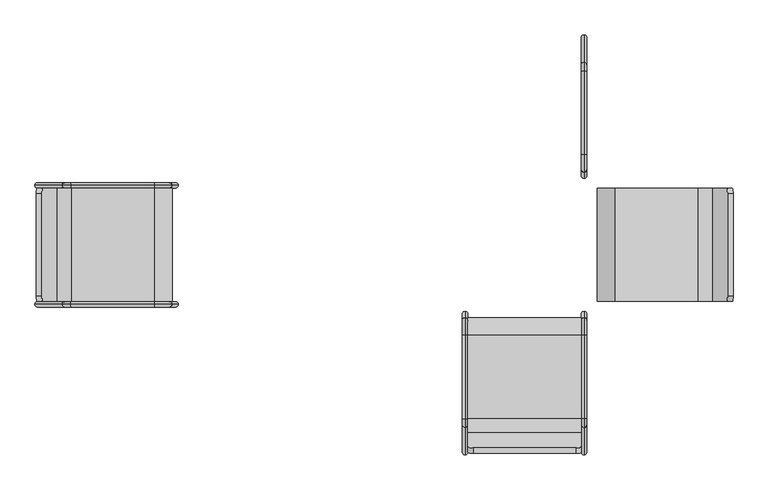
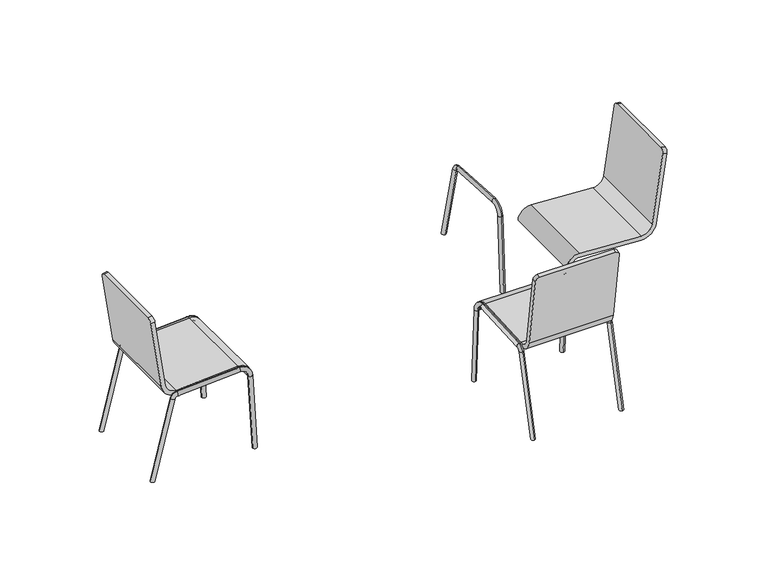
"""IFC4 building model written with IfcOpenShell, lengths in millimetres: furniture geometry, Esstisch mit Stühlen : 140 x 80 x 75 - 4 Stühle."""

from ifc_helpers import new_model, si_unit, point, frame, origin, place, context, project, spatial, polyline, circle_curve, ellipse_curve, trimmed, source, transform, mapped, element, save
from ifc_brep_helpers import plane_surface, cylinder_surface, revolved_surface, advanced_brep


def furniture_39fc5e60(model_context):
    return source(origin(), model_context, "Body", "AdvancedBrep", [
        advanced_brep(
        [(432.7255181, 202.5, 414.5657988), (485.0808804, 202.5, 457.0908917), (535.9370847, 202.5, 797.3777006), (555.717402, 202.5, 794.4215124), (504.8611977, 202.5, 454.1347035), (431.5636904, 202.5, 394.5995734), (135.5224482, 202.5, 411.8261096), (93.2663421, 202.5, 374.2173141), (73.3001167, 202.5, 375.3791418), (136.6842759, 202.5, 431.792335), (432.7255181, -202.5, 414.5657988), (136.6842759, -202.5, 431.792335), (73.3001167, -202.5, 375.3791418), (93.2663421, -202.5, 374.2173141), (135.5224482, -202.5, 411.8261096), (431.5636904, -202.5, 394.5995734), (504.8611977, -202.5, 454.1347035), (555.717402, -202.5, 794.4215124), (535.9370847, -202.5, 797.3777006), (485.0808804, -202.5, 457.0908917), (558.6735902, 182.5, 814.2018297), (558.6735902, -182.5, 814.2018297), (538.893273, 182.5, 817.1580179), (538.893273, -182.5, 817.1580179)],
        [
            (0, 1, circle_curve(frame((435.6300872, 202.5, 464.4813623), z_axis=(0.0, -1.0, 0.0), x_axis=(1.0, 0.0, 0.0)), 50.0)),
            (1, 2),
            (2, 3),
            (3, 4),
            (4, 5, circle_curve(frame((435.6300872, 202.5, 464.4813623), z_axis=(0.0, 1.0, 0.0), x_axis=(1.0, 0.0, 0.0)), 70.0)),
            (5, 6),
            (6, 7, circle_curve(frame((133.1987929, 202.5, 371.8936588), z_axis=(0.0, -1.0, 0.0), x_axis=(1.0, 0.0, 0.0)), 40.0)),
            (7, 8),
            (8, 9, circle_curve(frame((133.1987929, 202.5, 371.8936588), z_axis=(0.0, 1.0, 0.0), x_axis=(1.0, 0.0, 0.0)), 60.0)),
            (9, 0),
            (10, 11),
            (11, 12, circle_curve(frame((133.1987929, -202.5, 371.8936588), z_axis=(0.0, -1.0, 0.0), x_axis=(1.0, 0.0, 0.0)), 60.0)),
            (12, 13),
            (13, 14, circle_curve(frame((133.1987929, -202.5, 371.8936588), z_axis=(0.0, 1.0, 0.0), x_axis=(1.0, 0.0, 0.0)), 40.0)),
            (14, 15),
            (15, 16, circle_curve(frame((435.6300872, -202.5, 464.4813623), z_axis=(0.0, -1.0, 0.0), x_axis=(1.0, 0.0, 0.0)), 70.0)),
            (16, 17),
            (17, 18),
            (18, 19),
            (19, 10, circle_curve(frame((435.6300872, -202.5, 464.4813623), z_axis=(0.0, 1.0, 0.0), x_axis=(1.0, 0.0, 0.0)), 50.0)),
            (9, 11),
            (10, 0),
            (8, 12),
            (7, 13),
            (6, 14),
            (5, 15),
            (4, 16),
            (3, 20, circle_curve(frame((555.717402, 182.5, 794.4215124), z_axis=(0.9890158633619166, 0.0, -0.14780941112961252), x_axis=(0.0, -1.0, 0.0)), 20.0)),
            (20, 21),
            (21, 17, circle_curve(frame((555.717402, -182.5, 794.4215124), z_axis=(0.9890158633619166, 0.0, -0.14780941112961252), x_axis=(0.0, 1.0, 0.0)), 20.0)),
            (20, 22),
            (22, 23),
            (23, 21),
            (18, 23, circle_curve(frame((535.9370847, -182.5, 797.3777006), z_axis=(-0.9890158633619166, 0.0, 0.14780941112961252), x_axis=(0.0, 1.0, 0.0)), 20.0)),
            (22, 2, circle_curve(frame((535.9370847, 182.5, 797.3777006), z_axis=(-0.9890158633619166, 0.0, 0.14780941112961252), x_axis=(0.0, -1.0, 0.0)), 20.0)),
            (1, 19),
        ],
        [
            plane_surface(frame((138.9293412, 202.5, 431.6616954), z_axis=(0.0, 1.0000000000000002, 0.0), x_axis=(-0.9983112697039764, 0.0, 0.05809138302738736))),
            plane_surface(frame((138.9293412, -202.5, 431.6616954), z_axis=(0.0, -1.0000000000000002, 0.0), x_axis=(0.9983112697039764, 0.0, -0.05809138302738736))),
            plane_surface(frame((432.7255181, 202.5, 414.5657988), z_axis=(0.05809138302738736, 0.0, 0.9983112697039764), x_axis=(0.0, -1.0, 0.0))),
            cylinder_surface(frame((133.1987929, -202.5, 371.8936588), z_axis=(0.0, 1.0, 0.0), x_axis=(1.0, 0.0, 0.0)), 60.0),
            plane_surface(frame((73.3001167, 202.5, 375.3791418), z_axis=(-0.058091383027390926, 0.0, -0.9983112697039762), x_axis=(0.0, -1.0, 0.0))),
            revolved_surface(polyline([(173.1987929, -202.5, 371.8936588), (173.1987929, 202.5, 371.8936588)]), (133.1987929, -202.5, 371.8936588), (0.0, -1.0, 0.0)),
            plane_surface(frame((135.5224482, 202.5, 411.8261096), z_axis=(-0.05809138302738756, 0.0, -0.9983112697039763), x_axis=(0.0, -1.0, 0.0))),
            cylinder_surface(frame((435.6300872, -202.5, 464.4813623), z_axis=(0.0, 1.0, 0.0), x_axis=(1.0, 0.0, 0.0)), 70.0),
            plane_surface(frame((504.8611977, 202.5, 454.1347035), z_axis=(0.9890158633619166, 0.0, -0.1478094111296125), x_axis=(0.0, -1.0, 0.0))),
            plane_surface(frame((558.6735902, 202.5, 814.2018297), z_axis=(0.14780941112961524, 0.0, 0.9890158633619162), x_axis=(0.0, -1.0, 0.0))),
            plane_surface(frame((538.893273, 202.5, 817.1580179), z_axis=(-0.9890158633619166, 0.0, 0.14780941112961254), x_axis=(0.0, -1.0, 0.0))),
            revolved_surface(polyline([(485.6300872, -202.5, 464.4813623), (485.6300872, 202.5, 464.4813623)]), (435.6300872, -202.5, 464.4813623), (0.0, -1.0, 0.0)),
            cylinder_surface(frame((535.9370847, -182.5, 797.3777006), z_axis=(-0.9890158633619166, 0.0, 0.14780941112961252), x_axis=(0.0, 1.0, 0.0)), 20.0),
            cylinder_surface(frame((535.9370847, 182.5, 797.3777006), z_axis=(-0.9890158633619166, 0.0, 0.14780941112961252), x_axis=(0.0, -1.0, 0.0)), 20.0),
        ],
        [
            (0, [[1, 2, 3, 4, 5, 6, 7, 8, 9, 10]]),
            (1, [[11, 12, 13, 14, 15, 16, 17, 18, 19, 20]]),
            (2, [[21, -11, 22, -10]]),
            (3, [[23, -12, -21, -9]]),
            (4, [[24, -13, -23, -8]]),
            (5, [[25, -14, -24, -7]]),
            (6, [[26, -15, -25, -6]]),
            (7, [[27, -16, -26, -5]]),
            (8, [[-4, 28, 29, 30, -17, -27]]),
            (9, [[31, 32, 33, -29]]),
            (10, [[-19, 34, -32, 35, -2, 36]]),
            (11, [[-22, -20, -36, -1]]),
            (12, [[-30, -33, -34, -18]]),
            (13, [[-35, -31, -28, -3]]),
        ],
    ),
        advanced_brep(
        [(-1916.2585347, 212.5797007, 0.0), (-1936.8708073, 212.5797007, 0.0), (-1434.6031938, 222.5797007, 0.0), (-1434.6031938, 202.5797007, 0.0), (-1444.6201096, 212.5797007, 0.0), (-1820.7368981, 212.5797007, 383.1163586), (-1840.1428126, 212.5797007, 387.9547965), (-1807.053833, 212.5797007, 394.4621992), (-1808.2156606, 212.5797007, 414.4284246), (-1508.6517901, 212.5797007, 411.8261096), (-1509.8136178, 212.5797007, 431.792335), (-1466.395684, 212.5797007, 374.2173141), (-1446.4294586, 212.5797007, 375.3791418), (-1424.6200811, 212.5797007, 0.5809138)],
        [
            (0, 1, ellipse_curve(frame((-1926.564671, 212.5797007, 0.0), z_axis=(0.0, 0.0, -1.0), x_axis=(-1.0, 0.0, 0.0)), 10.3061363, 10.0)),
            (1, 0, ellipse_curve(frame((-1926.564671, 212.5797007, 0.0), z_axis=(0.0, 0.0, -1.0), x_axis=(-1.0, 0.0, 0.0)), 10.3061363, 10.0)),
            (2, 3),
            (3, 4, ellipse_curve(frame((-1434.6031938, 212.5797007, 0.0), z_axis=(0.0, 0.0, -1.0), x_axis=(-1.0, 0.0, 0.0)), 10.0169159, 10.0)),
            (4, 2, ellipse_curve(frame((-1434.6031938, 212.5797007, 0.0), z_axis=(0.0, 0.0, -1.0), x_axis=(-1.0, 0.0, 0.0)), 10.0169159, 10.0)),
            (5, 6, circle_curve(frame((-1830.4398554, 212.5797007, 385.5355776), z_axis=(-0.24192189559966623, 0.0, -0.9702957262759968), x_axis=(-0.9702957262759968, 0.0, 0.24192189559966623)), 10.0)),
            (6, 1),
            (0, 5),
            (6, 5, circle_curve(frame((-1830.4398554, 212.5797007, 385.5355776), z_axis=(-0.24192189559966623, 0.0, -0.9702957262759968), x_axis=(-0.9702957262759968, 0.0, 0.24192189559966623)), 10.0)),
            (5, 7, circle_curve(frame((-1806.1824622, 212.5797007, 379.4875302), z_axis=(0.0, 1.0, 0.0), x_axis=(-0.9702957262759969, 0.0, 0.2419218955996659)), 15.0)),
            (7, 8, circle_curve(frame((-1807.6347468, 212.5797007, 404.4453119), z_axis=(-0.998311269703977, 0.0, -0.058091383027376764), x_axis=(-0.058091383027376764, 0.0, 0.998311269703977)), 10.0)),
            (8, 6, circle_curve(frame((-1806.1824622, 212.5797007, 379.4875302), z_axis=(0.0, -1.0, 0.0), x_axis=(-0.9702957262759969, 0.0, 0.2419218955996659)), 35.0)),
            (8, 7, circle_curve(frame((-1807.6347468, 212.5797007, 404.4453119), z_axis=(-0.9983112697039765, 0.0, -0.05809138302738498), x_axis=(-0.05809138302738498, 0.0, 0.9983112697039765)), 10.0)),
            (7, 9),
            (9, 10, circle_curve(frame((-1509.232704, 212.5797007, 421.8092223), z_axis=(-0.9983112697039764, 0.0, -0.058091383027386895), x_axis=(-0.058091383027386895, 0.0, 0.9983112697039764)), 10.0)),
            (10, 8),
            (10, 9, circle_curve(frame((-1509.232704, 212.5797007, 421.8092223), z_axis=(-0.9983112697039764, 0.0, -0.058091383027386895), x_axis=(-0.058091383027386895, 0.0, 0.9983112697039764)), 10.0)),
            (9, 11, circle_curve(frame((-1506.3281348, 212.5797007, 371.8936588), z_axis=(0.0, 1.0, 0.0), x_axis=(-0.05809138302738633, 0.0, 0.9983112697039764)), 40.0)),
            (11, 12, circle_curve(frame((-1456.4125713, 212.5797007, 374.7982279), z_axis=(-0.058091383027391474, 0.0, 0.9983112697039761), x_axis=(0.9983112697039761, 0.0, 0.058091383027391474)), 10.0)),
            (12, 10, circle_curve(frame((-1506.3281348, 212.5797007, 371.8936588), z_axis=(0.0, -1.0, 0.0), x_axis=(-0.05809138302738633, 0.0, 0.9983112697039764)), 60.0)),
            (12, 11, circle_curve(frame((-1456.4125713, 212.5797007, 374.7982279), z_axis=(-0.05809138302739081, 0.0, 0.9983112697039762), x_axis=(0.9983112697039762, 0.0, 0.05809138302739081)), 10.0)),
            (2, 13, circle_curve(frame((-1434.6031938, 212.5797007, 0.0), z_axis=(0.058091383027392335, 0.0, -0.9983112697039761), x_axis=(0.9983112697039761, 0.0, 0.058091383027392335)), 10.0)),
            (13, 3, circle_curve(frame((-1434.6031938, 212.5797007, 0.0), z_axis=(0.058091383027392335, 0.0, -0.9983112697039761), x_axis=(0.9983112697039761, 0.0, 0.058091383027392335)), 10.0)),
            (11, 4),
            (13, 12),
        ],
        [
            plane_surface(frame((-1962.0110531, 250.0, 0.0), z_axis=(0.0, 0.0, -1.0), x_axis=(0.0, -1.0, 0.0))),
            cylinder_surface(frame((-1929.1748213, 212.5797007, -10.4687411), z_axis=(-0.24192189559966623, 0.0, -0.9702957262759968), x_axis=(-0.9702957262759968, 0.0, 0.24192189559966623)), 10.0),
            revolved_surface(trimmed(ellipse_curve(frame((-1830.4398554, 212.5797007, 385.5355776), z_axis=(-0.2419218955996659, 0.0, -0.9702957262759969), x_axis=(-0.9702957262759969, 0.0, 0.2419218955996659)), 10.0, 10.0), [point((-1820.7368981, 212.5797007, 383.1163586))], [point((-1840.1428126, 212.5797007, 387.9547965))], True, "CARTESIAN"), (-1806.1824622, 192.5797007, 379.4875302), (0.0, 1.0, 0.0)),
            revolved_surface(trimmed(ellipse_curve(frame((-1830.4398554, 212.5797007, 385.5355776), z_axis=(-0.2419218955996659, 0.0, -0.9702957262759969), x_axis=(-0.9702957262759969, 0.0, 0.2419218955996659)), 10.0, 10.0), [point((-1840.1428126, 212.5797007, 387.9547965))], [point((-1820.7368981, 212.5797007, 383.1163586))], True, "CARTESIAN"), (-1806.1824622, 192.5797007, 379.4875302), (0.0, 1.0, 0.0)),
            cylinder_surface(frame((-1807.6347468, 212.5797007, 404.4453119), z_axis=(-0.9983112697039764, 0.0, -0.058091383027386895), x_axis=(-0.058091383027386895, 0.0, 0.9983112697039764)), 10.0),
            revolved_surface(trimmed(ellipse_curve(frame((-1509.232704, 212.5797007, 421.8092223), z_axis=(-0.9983112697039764, 0.0, -0.05809138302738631), x_axis=(-0.05809138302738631, 0.0, 0.9983112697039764)), 10.0, 10.0), [point((-1508.6517901, 212.5797007, 411.8261096))], [point((-1509.8136178, 212.5797007, 431.792335))], True, "CARTESIAN"), (-1506.3281348, 192.5797007, 371.8936588), (0.0, 1.0, 0.0)),
            revolved_surface(trimmed(ellipse_curve(frame((-1509.232704, 212.5797007, 421.8092223), z_axis=(-0.9983112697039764, 0.0, -0.05809138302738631), x_axis=(-0.05809138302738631, 0.0, 0.9983112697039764)), 10.0, 10.0), [point((-1509.8136178, 212.5797007, 431.792335))], [point((-1508.6517901, 212.5797007, 411.8261096))], True, "CARTESIAN"), (-1506.3281348, 192.5797007, 371.8936588), (0.0, 1.0, 0.0)),
            plane_surface(frame((-1434.6031938, 192.5797007, 0.0), z_axis=(0.058091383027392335, 0.0, -0.9983112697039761), x_axis=(0.0, 1.0, 0.0))),
            cylinder_surface(frame((-1456.4125713, 212.5797007, 374.7982279), z_axis=(-0.058091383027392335, 0.0, 0.9983112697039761), x_axis=(0.9983112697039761, 0.0, 0.058091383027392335)), 10.0),
        ],
        [
            (0, [[1, 2]]),
            (0, [[3, 4, 5]]),
            (1, [[6, 7, -1, 8]]),
            (1, [[9, -8, -2, -7]]),
            (2, [[-6, 10, 11, 12]]),
            (3, [[-9, -12, 13, -10]]),
            (4, [[-11, 14, 15, 16]]),
            (4, [[-13, -16, 17, -14]]),
            (5, [[-15, 18, 19, 20]]),
            (6, [[-17, -20, 21, -18]]),
            (7, [[22, 23, -3]]),
            (8, [[-19, 24, -4, -23, 25]]),
            (8, [[-21, -25, -22, -5, -24]]),
        ],
    ),
        advanced_brep(
        [(-1434.6031938, -202.5797007, 0.0), (-1424.6200811, -212.5797007, 0.5809138), (-1434.6031938, -222.5797007, 0.0), (-1820.7368981, -212.5797007, 383.1163586), (-1840.1428126, -212.5797007, 387.9547965), (-1936.8708073, -212.5797007, 0.0), (-1916.2585347, -212.5797007, 0.0), (-1444.6201096, -212.5797007, 0.0), (-1808.2156606, -212.5797007, 414.4284246), (-1807.053833, -212.5797007, 394.4621992), (-1508.6517901, -212.5797007, 411.8261096), (-1509.8136178, -212.5797007, 431.792335), (-1466.395684, -212.5797007, 374.2173141), (-1446.4294586, -212.5797007, 375.3791418)],
        [
            (0, 1, circle_curve(frame((-1434.6031938, -212.5797007, 0.0), z_axis=(0.058091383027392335, 0.0, -0.9983112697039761), x_axis=(0.9983112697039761, 0.0, 0.058091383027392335)), 10.0)),
            (1, 2, circle_curve(frame((-1434.6031938, -212.5797007, 0.0), z_axis=(0.058091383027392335, 0.0, -0.9983112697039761), x_axis=(0.9983112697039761, 0.0, 0.058091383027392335)), 10.0)),
            (2, 0),
            (3, 4, circle_curve(frame((-1830.4398554, -212.5797007, 385.5355776), z_axis=(-0.24192189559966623, 0.0, -0.9702957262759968), x_axis=(-0.9702957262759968, 0.0, 0.24192189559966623)), 10.0)),
            (4, 5),
            (5, 6, ellipse_curve(frame((-1926.564671, -212.5797007, 0.0), z_axis=(0.0, 0.0, 1.0), x_axis=(-1.0, 0.0, 0.0)), 10.3061363, 10.0)),
            (6, 3),
            (4, 3, circle_curve(frame((-1830.4398554, -212.5797007, 385.5355776), z_axis=(-0.24192189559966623, 0.0, -0.9702957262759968), x_axis=(-0.9702957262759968, 0.0, 0.24192189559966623)), 10.0)),
            (6, 5, ellipse_curve(frame((-1926.564671, -212.5797007, 0.0), z_axis=(0.0, 0.0, 1.0), x_axis=(-1.0, 0.0, 0.0)), 10.3061363, 10.0)),
            (2, 7, ellipse_curve(frame((-1434.6031938, -212.5797007, 0.0), z_axis=(0.0, 0.0, -1.0), x_axis=(-1.0, 0.0, 0.0)), 10.0169159, 10.0)),
            (7, 0, ellipse_curve(frame((-1434.6031938, -212.5797007, 0.0), z_axis=(0.0, 0.0, -1.0), x_axis=(-1.0, 0.0, 0.0)), 10.0169159, 10.0)),
            (8, 9, circle_curve(frame((-1807.6347468, -212.5797007, 404.4453119), z_axis=(0.9983112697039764, 0.0, 0.058091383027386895), x_axis=(-0.058091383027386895, 0.0, 0.9983112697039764)), 10.0)),
            (9, 10),
            (10, 11, circle_curve(frame((-1509.232704, -212.5797007, 421.8092223), z_axis=(-0.9983112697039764, 0.0, -0.058091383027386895), x_axis=(-0.058091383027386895, 0.0, 0.9983112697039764)), 10.0)),
            (11, 8),
            (9, 8, circle_curve(frame((-1807.6347468, -212.5797007, 404.4453119), z_axis=(0.9983112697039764, 0.0, 0.058091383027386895), x_axis=(-0.058091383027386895, 0.0, 0.9983112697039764)), 10.0)),
            (11, 10, circle_curve(frame((-1509.232704, -212.5797007, 421.8092223), z_axis=(-0.9983112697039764, 0.0, -0.058091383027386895), x_axis=(-0.058091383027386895, 0.0, 0.9983112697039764)), 10.0)),
            (10, 12, circle_curve(frame((-1506.3281348, -212.5797007, 371.8936588), z_axis=(0.0, 1.0, 0.0), x_axis=(-0.05809138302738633, 0.0, 0.9983112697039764)), 40.0)),
            (12, 13, circle_curve(frame((-1456.4125713, -212.5797007, 374.7982279), z_axis=(-0.058091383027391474, 0.0, 0.9983112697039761), x_axis=(0.9983112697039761, 0.0, 0.058091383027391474)), 10.0)),
            (13, 11, circle_curve(frame((-1506.3281348, -212.5797007, 371.8936588), z_axis=(0.0, -1.0, 0.0), x_axis=(-0.05809138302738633, 0.0, 0.9983112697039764)), 60.0)),
            (13, 12, circle_curve(frame((-1456.4125713, -212.5797007, 374.7982279), z_axis=(-0.05809138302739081, 0.0, 0.9983112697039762), x_axis=(0.9983112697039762, 0.0, 0.05809138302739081)), 10.0)),
            (12, 7),
            (1, 13),
            (3, 9, circle_curve(frame((-1806.1824622, -212.5797007, 379.4875302), z_axis=(0.0, 1.0, 0.0), x_axis=(-0.9702957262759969, 0.0, 0.2419218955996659)), 15.0)),
            (8, 4, circle_curve(frame((-1806.1824622, -212.5797007, 379.4875302), z_axis=(0.0, -1.0, 0.0), x_axis=(-0.9702957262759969, 0.0, 0.2419218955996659)), 35.0)),
        ],
        [
            plane_surface(frame((-1434.6031938, -192.5797007, 0.0), z_axis=(0.058091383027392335, 0.0, -0.9983112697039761), x_axis=(0.0, -1.0, 0.0))),
            cylinder_surface(frame((-1929.1748213, -212.5797007, -10.4687411), z_axis=(-0.24192189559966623, 0.0, -0.9702957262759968), x_axis=(-0.9702957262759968, 0.0, 0.24192189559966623)), 10.0),
            plane_surface(frame((-1962.0110531, 250.0, 0.0), z_axis=(0.0, 0.0, -1.0), x_axis=(0.0, -1.0, 0.0))),
            cylinder_surface(frame((-1807.6347468, -212.5797007, 404.4453119), z_axis=(-0.9983112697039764, 0.0, -0.058091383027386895), x_axis=(-0.058091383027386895, 0.0, 0.9983112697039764)), 10.0),
            revolved_surface(trimmed(ellipse_curve(frame((-1509.232704, -212.5797007, 421.8092223), z_axis=(-0.9983112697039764, 0.0, -0.05809138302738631), x_axis=(-0.05809138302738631, 0.0, 0.9983112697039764)), 10.0, 10.0), [point((-1508.6517901, -212.5797007, 411.8261096))], [point((-1509.8136178, -212.5797007, 431.792335))], True, "CARTESIAN"), (-1506.3281348, -192.5797007, 371.8936588), (0.0, 1.0, 0.0)),
            revolved_surface(trimmed(ellipse_curve(frame((-1509.232704, -212.5797007, 421.8092223), z_axis=(-0.9983112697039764, 0.0, -0.05809138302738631), x_axis=(-0.05809138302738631, 0.0, 0.9983112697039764)), 10.0, 10.0), [point((-1509.8136178, -212.5797007, 431.792335))], [point((-1508.6517901, -212.5797007, 411.8261096))], True, "CARTESIAN"), (-1506.3281348, -192.5797007, 371.8936588), (0.0, 1.0, 0.0)),
            cylinder_surface(frame((-1456.4125713, -212.5797007, 374.7982279), z_axis=(-0.058091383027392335, 0.0, 0.9983112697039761), x_axis=(0.9983112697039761, 0.0, 0.058091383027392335)), 10.0),
            revolved_surface(trimmed(ellipse_curve(frame((-1830.4398554, -212.5797007, 385.5355776), z_axis=(-0.2419218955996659, 0.0, -0.9702957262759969), x_axis=(-0.9702957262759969, 0.0, 0.2419218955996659)), 10.0, 10.0), [point((-1820.7368981, -212.5797007, 383.1163586))], [point((-1840.1428126, -212.5797007, 387.9547965))], True, "CARTESIAN"), (-1806.1824622, -192.5797007, 379.4875302), (0.0, 1.0, 0.0)),
            revolved_surface(trimmed(ellipse_curve(frame((-1830.4398554, -212.5797007, 385.5355776), z_axis=(-0.2419218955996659, 0.0, -0.9702957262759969), x_axis=(-0.9702957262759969, 0.0, 0.2419218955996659)), 10.0, 10.0), [point((-1840.1428126, -212.5797007, 387.9547965))], [point((-1820.7368981, -212.5797007, 383.1163586))], True, "CARTESIAN"), (-1806.1824622, -192.5797007, 379.4875302), (0.0, 1.0, 0.0)),
        ],
        [
            (0, [[1, 2, 3]]),
            (1, [[4, 5, 6, 7]]),
            (1, [[8, -7, 9, -5]]),
            (2, [[-3, 10, 11]]),
            (2, [[-6, -9]]),
            (3, [[12, 13, 14, 15]]),
            (3, [[16, -15, 17, -13]]),
            (4, [[-14, 18, 19, 20]]),
            (5, [[-17, -20, 21, -18]]),
            (6, [[-19, 22, -10, -2, 23]]),
            (6, [[-21, -23, -1, -11, -22]]),
            (7, [[-4, 24, -12, 25]]),
            (8, [[-8, -25, -16, -24]]),
        ],
    ),
        advanced_brep(
        [(-1805.85486, 202.5, 414.5657988), (-1509.8136178, 202.5, 431.792335), (-1446.4294586, 202.5, 375.3791418), (-1466.395684, 202.5, 374.2173141), (-1508.6517901, 202.5, 411.8261096), (-1804.6930323, 202.5, 394.5995734), (-1877.9905396, 202.5, 454.1347035), (-1928.8467439, 202.5, 794.4215124), (-1909.0664267, 202.5, 797.3777006), (-1858.2102223, 202.5, 457.0908917), (-1805.85486, -202.5, 414.5657988), (-1858.2102223, -202.5, 457.0908917), (-1909.0664267, -202.5, 797.3777006), (-1928.8467439, -202.5, 794.4215124), (-1877.9905396, -202.5, 454.1347035), (-1804.6930323, -202.5, 394.5995734), (-1508.6517901, -202.5, 411.8261096), (-1466.395684, -202.5, 374.2173141), (-1446.4294586, -202.5, 375.3791418), (-1509.8136178, -202.5, 431.792335), (-1931.8029322, -182.5, 814.2018297), (-1931.8029322, 182.5, 814.2018297), (-1912.0226149, -182.5, 817.1580179), (-1912.0226149, 182.5, 817.1580179)],
        [
            (0, 1),
            (1, 2, circle_curve(frame((-1506.3281348, 202.5, 371.8936588), z_axis=(0.0, 1.0, 0.0), x_axis=(-1.0, 0.0, 0.0)), 60.0)),
            (2, 3),
            (3, 4, circle_curve(frame((-1506.3281348, 202.5, 371.8936588), z_axis=(0.0, -1.0, 0.0), x_axis=(-1.0, 0.0, 0.0)), 40.0)),
            (4, 5),
            (5, 6, circle_curve(frame((-1808.7594292, 202.5, 464.4813623), z_axis=(0.0, 1.0, 0.0), x_axis=(-1.0, 0.0, 0.0)), 70.0)),
            (6, 7),
            (7, 8),
            (8, 9),
            (9, 0, circle_curve(frame((-1808.7594292, 202.5, 464.4813623), z_axis=(0.0, -1.0, 0.0), x_axis=(-1.0, 0.0, 0.0)), 50.0)),
            (10, 11, circle_curve(frame((-1808.7594292, -202.5, 464.4813623), z_axis=(0.0, 1.0, 0.0), x_axis=(-1.0, 0.0, 0.0)), 50.0)),
            (11, 12),
            (12, 13),
            (13, 14),
            (14, 15, circle_curve(frame((-1808.7594292, -202.5, 464.4813623), z_axis=(0.0, -1.0, 0.0), x_axis=(-1.0, 0.0, 0.0)), 70.0)),
            (15, 16),
            (16, 17, circle_curve(frame((-1506.3281348, -202.5, 371.8936588), z_axis=(0.0, 1.0, 0.0), x_axis=(-1.0, 0.0, 0.0)), 40.0)),
            (17, 18),
            (18, 19, circle_curve(frame((-1506.3281348, -202.5, 371.8936588), z_axis=(0.0, -1.0, 0.0), x_axis=(-1.0, 0.0, 0.0)), 60.0)),
            (19, 10),
            (0, 10),
            (19, 1),
            (18, 2),
            (17, 3),
            (16, 4),
            (15, 5),
            (14, 6),
            (13, 20, circle_curve(frame((-1928.8467439, -182.5, 794.4215124), z_axis=(-0.9890158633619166, 0.0, -0.14780941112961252), x_axis=(0.0, 1.0, 0.0)), 20.0)),
            (20, 21),
            (21, 7, circle_curve(frame((-1928.8467439, 182.5, 794.4215124), z_axis=(-0.9890158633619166, 0.0, -0.14780941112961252), x_axis=(0.0, -1.0, 0.0)), 20.0)),
            (20, 22),
            (22, 23),
            (23, 21),
            (11, 9),
            (8, 23, circle_curve(frame((-1909.0664267, 182.5, 797.3777006), z_axis=(0.9890158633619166, 0.0, 0.14780941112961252), x_axis=(0.0, -1.0, 0.0)), 20.0)),
            (22, 12, circle_curve(frame((-1909.0664267, -182.5, 797.3777006), z_axis=(0.9890158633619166, 0.0, 0.14780941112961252), x_axis=(0.0, 1.0, 0.0)), 20.0)),
        ],
        [
            plane_surface(frame((-1512.0586831, 202.5, 431.6616954), z_axis=(0.0, 1.0000000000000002, 0.0), x_axis=(0.9983112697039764, 0.0, 0.05809138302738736))),
            plane_surface(frame((-1512.0586831, -202.5, 431.6616954), z_axis=(0.0, -1.0000000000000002, 0.0), x_axis=(-0.9983112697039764, 0.0, -0.05809138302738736))),
            plane_surface(frame((-1805.85486, 202.5, 414.5657988), z_axis=(-0.05809138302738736, 0.0, 0.9983112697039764), x_axis=(0.0, -1.0, 0.0))),
            cylinder_surface(frame((-1506.3281348, -202.5, 371.8936588), z_axis=(0.0, 1.0, 0.0), x_axis=(-1.0, 0.0, 0.0)), 60.0),
            plane_surface(frame((-1446.4294586, 202.5, 375.3791418), z_axis=(0.058091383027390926, 0.0, -0.9983112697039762), x_axis=(0.0, -1.0, 0.0))),
            revolved_surface(polyline([(-1546.3281348, -202.5, 371.8936588), (-1546.3281348, 202.5, 371.8936588)]), (-1506.3281348, -202.5, 371.8936588), (0.0, -1.0, 0.0)),
            plane_surface(frame((-1508.6517901, 202.5, 411.8261096), z_axis=(0.05809138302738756, 0.0, -0.9983112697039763), x_axis=(0.0, -1.0, 0.0))),
            cylinder_surface(frame((-1808.7594292, -202.5, 464.4813623), z_axis=(0.0, 1.0, 0.0), x_axis=(-1.0, 0.0, 0.0)), 70.0),
            plane_surface(frame((-1877.9905396, 202.5, 454.1347035), z_axis=(-0.9890158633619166, 0.0, -0.1478094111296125), x_axis=(0.0, -1.0, 0.0))),
            plane_surface(frame((-1931.8029322, 202.5, 814.2018297), z_axis=(-0.14780941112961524, 0.0, 0.9890158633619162), x_axis=(0.0, -1.0, 0.0))),
            plane_surface(frame((-1912.0226149, 202.5, 817.1580179), z_axis=(0.9890158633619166, 0.0, 0.14780941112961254), x_axis=(0.0, -1.0, 0.0))),
            revolved_surface(polyline([(-1858.7594292, -202.5, 464.4813623), (-1858.7594292, 202.5, 464.4813623)]), (-1808.7594292, -202.5, 464.4813623), (0.0, -1.0, 0.0)),
            cylinder_surface(frame((-1909.0664267, -182.5, 797.3777006), z_axis=(0.9890158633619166, 0.0, 0.14780941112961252), x_axis=(0.0, 1.0, 0.0)), 20.0),
            cylinder_surface(frame((-1909.0664267, 182.5, 797.3777006), z_axis=(0.9890158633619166, 0.0, 0.14780941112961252), x_axis=(0.0, -1.0, 0.0)), 20.0),
        ],
        [
            (0, [[1, 2, 3, 4, 5, 6, 7, 8, 9, 10]]),
            (1, [[11, 12, 13, 14, 15, 16, 17, 18, 19, 20]]),
            (2, [[-1, 21, -20, 22]]),
            (3, [[-2, -22, -19, 23]]),
            (4, [[-3, -23, -18, 24]]),
            (5, [[-4, -24, -17, 25]]),
            (6, [[-5, -25, -16, 26]]),
            (7, [[-6, -26, -15, 27]]),
            (8, [[-27, -14, 28, 29, 30, -7]]),
            (9, [[-29, 31, 32, 33]]),
            (10, [[34, -9, 35, -32, 36, -12]]),
            (11, [[-10, -34, -11, -21]]),
            (12, [[-13, -36, -31, -28]]),
            (13, [[-8, -30, -33, -35]]),
        ],
    ),
        advanced_brep(
        [(26.0150298, -729.6938637, 0.0), (26.0150298, -750.3061363, 0.0), (36.0150298, -248.0385228, 0.0), (26.0150298, -258.0554387, 0.0), (16.0150298, -248.0385228, 0.0), (26.0150298, -634.1722272, 383.1163586), (26.0150298, -653.5781417, 387.9547965), (26.0150298, -621.6509897, 414.4284246), (26.0150298, -620.489162, 394.4621992), (26.0150298, -323.2489468, 431.792335), (26.0150298, -322.0871192, 411.8261096), (26.0150298, -259.8647877, 375.3791418), (26.0150298, -279.8310131, 374.2173141), (26.0150298, -238.0554101, 0.5809138)],
        [
            (0, 1, ellipse_curve(frame((26.0150298, -740.0, 0.0), z_axis=(0.0, 0.0, -1.0), x_axis=(0.0, -1.0, 0.0)), 10.3061363, 10.0)),
            (1, 0, ellipse_curve(frame((26.0150298, -740.0, 0.0), z_axis=(0.0, 0.0, -1.0), x_axis=(0.0, -1.0, 0.0)), 10.3061363, 10.0)),
            (2, 3, ellipse_curve(frame((26.0150298, -248.0385228, 0.0), z_axis=(0.0, 0.0, -1.0), x_axis=(0.0, -1.0, 0.0)), 10.0169159, 10.0)),
            (3, 4, ellipse_curve(frame((26.0150298, -248.0385228, 0.0), z_axis=(0.0, 0.0, -1.0), x_axis=(0.0, -1.0, 0.0)), 10.0169159, 10.0)),
            (4, 2),
            (5, 0),
            (1, 6),
            (6, 5, circle_curve(frame((26.0150298, -643.8751844, 385.5355776), z_axis=(0.0, -0.24192189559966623, -0.9702957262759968), x_axis=(0.0, -0.9702957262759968, 0.24192189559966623)), 10.0)),
            (5, 6, circle_curve(frame((26.0150298, -643.8751844, 385.5355776), z_axis=(0.0, -0.24192189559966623, -0.9702957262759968), x_axis=(0.0, -0.9702957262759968, 0.24192189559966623)), 10.0)),
            (6, 7, circle_curve(frame((26.0150298, -619.6177913, 379.4875302), z_axis=(-1.0, 0.0, 0.0), x_axis=(0.0, -0.9702957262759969, 0.2419218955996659)), 35.0)),
            (7, 8, circle_curve(frame((26.0150298, -621.0700758, 404.4453119), z_axis=(0.0, -0.9983112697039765, -0.05809138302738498), x_axis=(0.0, -0.05809138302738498, 0.9983112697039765)), 10.0)),
            (8, 5, circle_curve(frame((26.0150298, -619.6177913, 379.4875302), z_axis=(1.0, 0.0, 0.0), x_axis=(0.0, -0.9702957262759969, 0.2419218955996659)), 15.0)),
            (8, 7, circle_curve(frame((26.0150298, -621.0700758, 404.4453119), z_axis=(0.0, -0.998311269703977, -0.058091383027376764), x_axis=(0.0, -0.058091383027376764, 0.998311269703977)), 10.0)),
            (7, 9),
            (9, 10, circle_curve(frame((26.0150298, -322.668033, 421.8092223), z_axis=(0.0, -0.9983112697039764, -0.058091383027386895), x_axis=(0.0, -0.058091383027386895, 0.9983112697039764)), 10.0)),
            (10, 8),
            (10, 9, circle_curve(frame((26.0150298, -322.668033, 421.8092223), z_axis=(0.0, -0.9983112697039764, -0.058091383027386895), x_axis=(0.0, -0.058091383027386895, 0.9983112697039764)), 10.0)),
            (9, 11, circle_curve(frame((26.0150298, -319.7634639, 371.8936588), z_axis=(-1.0, 0.0, 0.0), x_axis=(0.0, -0.05809138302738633, 0.9983112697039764)), 60.0)),
            (11, 12, circle_curve(frame((26.0150298, -269.8479004, 374.7982279), z_axis=(0.0, -0.05809138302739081, 0.9983112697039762), x_axis=(0.0, 0.9983112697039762, 0.05809138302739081)), 10.0)),
            (12, 10, circle_curve(frame((26.0150298, -319.7634639, 371.8936588), z_axis=(1.0, 0.0, 0.0), x_axis=(0.0, -0.05809138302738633, 0.9983112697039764)), 40.0)),
            (12, 11, circle_curve(frame((26.0150298, -269.8479004, 374.7982279), z_axis=(0.0, -0.058091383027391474, 0.9983112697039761), x_axis=(0.0, 0.9983112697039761, 0.058091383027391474)), 10.0)),
            (4, 13, circle_curve(frame((26.0150298, -248.0385228, 0.0), z_axis=(0.0, 0.058091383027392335, -0.9983112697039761), x_axis=(0.0, 0.9983112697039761, 0.058091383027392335)), 10.0)),
            (13, 2, circle_curve(frame((26.0150298, -248.0385228, 0.0), z_axis=(0.0, 0.058091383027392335, -0.9983112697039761), x_axis=(0.0, 0.9983112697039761, 0.058091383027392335)), 10.0)),
            (11, 13),
            (3, 12),
        ],
        [
            plane_surface(frame((63.435329, -775.4463822, 0.0), z_axis=(0.0, 0.0, -1.0), x_axis=(-1.0, 0.0, 0.0))),
            cylinder_surface(frame((26.0150298, -742.6101503, -10.4687411), z_axis=(0.0, -0.24192189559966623, -0.9702957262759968), x_axis=(0.0, -0.9702957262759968, 0.24192189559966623)), 10.0),
            revolved_surface(trimmed(ellipse_curve(frame((26.0150298, -643.8751844, 385.5355776), z_axis=(0.0, 0.2419218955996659, 0.9702957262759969), x_axis=(0.0, -0.9702957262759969, 0.2419218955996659)), 10.0, 10.0), [point((26.0150298, -634.1722272, 383.1163586))], [point((26.0150298, -653.5781417, 387.9547965))], True, "CARTESIAN"), (6.0150298, -619.6177913, 379.4875302), (1.0, 0.0, 0.0)),
            revolved_surface(trimmed(ellipse_curve(frame((26.0150298, -643.8751844, 385.5355776), z_axis=(0.0, 0.2419218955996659, 0.9702957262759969), x_axis=(0.0, -0.9702957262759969, 0.2419218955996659)), 10.0, 10.0), [point((26.0150298, -653.5781417, 387.9547965))], [point((26.0150298, -634.1722272, 383.1163586))], True, "CARTESIAN"), (6.0150298, -619.6177913, 379.4875302), (1.0, 0.0, 0.0)),
            cylinder_surface(frame((26.0150298, -621.0700758, 404.4453119), z_axis=(0.0, -0.9983112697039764, -0.058091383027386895), x_axis=(0.0, -0.058091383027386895, 0.9983112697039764)), 10.0),
            revolved_surface(trimmed(ellipse_curve(frame((26.0150298, -322.668033, 421.8092223), z_axis=(0.0, 0.9983112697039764, 0.05809138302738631), x_axis=(0.0, -0.05809138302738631, 0.9983112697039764)), 10.0, 10.0), [point((26.0150298, -322.0871192, 411.8261096))], [point((26.0150298, -323.2489468, 431.792335))], True, "CARTESIAN"), (6.0150298, -319.7634639, 371.8936588), (1.0, 0.0, 0.0)),
            revolved_surface(trimmed(ellipse_curve(frame((26.0150298, -322.668033, 421.8092223), z_axis=(0.0, 0.9983112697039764, 0.05809138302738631), x_axis=(0.0, -0.05809138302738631, 0.9983112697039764)), 10.0, 10.0), [point((26.0150298, -323.2489468, 431.792335))], [point((26.0150298, -322.0871192, 411.8261096))], True, "CARTESIAN"), (6.0150298, -319.7634639, 371.8936588), (1.0, 0.0, 0.0)),
            plane_surface(frame((6.0150298, -248.0385228, 0.0), z_axis=(0.0, 0.058091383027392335, -0.9983112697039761), x_axis=(1.0, 0.0, 0.0))),
            cylinder_surface(frame((26.0150298, -269.8479004, 374.7982279), z_axis=(0.0, -0.058091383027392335, 0.9983112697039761), x_axis=(0.0, 0.9983112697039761, 0.058091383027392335)), 10.0),
        ],
        [
            (0, [[1, 2]]),
            (0, [[3, 4, 5]]),
            (1, [[6, -2, 7, 8]]),
            (1, [[-7, -1, -6, 9]]),
            (2, [[10, 11, 12, -8]]),
            (3, [[-12, 13, -10, -9]]),
            (4, [[14, 15, 16, -11]]),
            (4, [[-16, 17, -14, -13]]),
            (5, [[18, 19, 20, -15]]),
            (6, [[-20, 21, -18, -17]]),
            (7, [[-5, 22, 23]]),
            (8, [[24, -22, -4, 25, -19]]),
            (8, [[-25, -3, -23, -24, -21]]),
        ],
    ),
        advanced_brep(
        [(-389.1443717, -248.0385228, 0.0), (-409.1443717, -248.0385228, 0.0), (-399.1443717, -238.0554101, 0.5809138), (-399.1443717, -634.1722272, 383.1163586), (-399.1443717, -729.6938637, 0.0), (-399.1443717, -750.3061363, 0.0), (-399.1443717, -653.5781417, 387.9547965), (-399.1443717, -258.0554387, 0.0), (-399.1443717, -621.6509897, 414.4284246), (-399.1443717, -323.2489468, 431.792335), (-399.1443717, -322.0871192, 411.8261096), (-399.1443717, -620.489162, 394.4621992), (-399.1443717, -259.8647877, 375.3791418), (-399.1443717, -279.8310131, 374.2173141)],
        [
            (0, 1),
            (1, 2, circle_curve(frame((-399.1443717, -248.0385228, 0.0), z_axis=(0.0, 0.058091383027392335, -0.9983112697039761), x_axis=(0.0, 0.9983112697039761, 0.058091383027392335)), 10.0)),
            (2, 0, circle_curve(frame((-399.1443717, -248.0385228, 0.0), z_axis=(0.0, 0.058091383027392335, -0.9983112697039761), x_axis=(0.0, 0.9983112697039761, 0.058091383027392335)), 10.0)),
            (3, 4),
            (4, 5, ellipse_curve(frame((-399.1443717, -740.0, 0.0), z_axis=(0.0, 0.0, 1.0), x_axis=(0.0, -1.0, 0.0)), 10.3061363, 10.0)),
            (5, 6),
            (6, 3, circle_curve(frame((-399.1443717, -643.8751844, 385.5355776), z_axis=(0.0, -0.24192189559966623, -0.9702957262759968), x_axis=(0.0, -0.9702957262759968, 0.24192189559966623)), 10.0)),
            (5, 4, ellipse_curve(frame((-399.1443717, -740.0, 0.0), z_axis=(0.0, 0.0, 1.0), x_axis=(0.0, -1.0, 0.0)), 10.3061363, 10.0)),
            (3, 6, circle_curve(frame((-399.1443717, -643.8751844, 385.5355776), z_axis=(0.0, -0.24192189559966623, -0.9702957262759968), x_axis=(0.0, -0.9702957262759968, 0.24192189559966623)), 10.0)),
            (0, 7, ellipse_curve(frame((-399.1443717, -248.0385228, 0.0), z_axis=(0.0, 0.0, -1.0), x_axis=(0.0, -1.0, 0.0)), 10.0169159, 10.0)),
            (7, 1, ellipse_curve(frame((-399.1443717, -248.0385228, 0.0), z_axis=(0.0, 0.0, -1.0), x_axis=(0.0, -1.0, 0.0)), 10.0169159, 10.0)),
            (8, 9),
            (9, 10, circle_curve(frame((-399.1443717, -322.668033, 421.8092223), z_axis=(0.0, -0.9983112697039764, -0.058091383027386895), x_axis=(0.0, -0.058091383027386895, 0.9983112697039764)), 10.0)),
            (10, 11),
            (11, 8, circle_curve(frame((-399.1443717, -621.0700758, 404.4453119), z_axis=(0.0, 0.9983112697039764, 0.058091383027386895), x_axis=(0.0, -0.058091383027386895, 0.9983112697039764)), 10.0)),
            (10, 9, circle_curve(frame((-399.1443717, -322.668033, 421.8092223), z_axis=(0.0, -0.9983112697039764, -0.058091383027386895), x_axis=(0.0, -0.058091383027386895, 0.9983112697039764)), 10.0)),
            (8, 11, circle_curve(frame((-399.1443717, -621.0700758, 404.4453119), z_axis=(0.0, 0.9983112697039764, 0.058091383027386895), x_axis=(0.0, -0.058091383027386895, 0.9983112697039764)), 10.0)),
            (9, 12, circle_curve(frame((-399.1443717, -319.7634639, 371.8936588), z_axis=(-1.0, 0.0, 0.0), x_axis=(0.0, -0.05809138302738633, 0.9983112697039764)), 60.0)),
            (12, 13, circle_curve(frame((-399.1443717, -269.8479004, 374.7982279), z_axis=(0.0, -0.05809138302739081, 0.9983112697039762), x_axis=(0.0, 0.9983112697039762, 0.05809138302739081)), 10.0)),
            (13, 10, circle_curve(frame((-399.1443717, -319.7634639, 371.8936588), z_axis=(1.0, 0.0, 0.0), x_axis=(0.0, -0.05809138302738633, 0.9983112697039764)), 40.0)),
            (13, 12, circle_curve(frame((-399.1443717, -269.8479004, 374.7982279), z_axis=(0.0, -0.058091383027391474, 0.9983112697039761), x_axis=(0.0, 0.9983112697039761, 0.058091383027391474)), 10.0)),
            (12, 2),
            (7, 13),
            (6, 8, circle_curve(frame((-399.1443717, -619.6177913, 379.4875302), z_axis=(-1.0, 0.0, 0.0), x_axis=(0.0, -0.9702957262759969, 0.2419218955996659)), 35.0)),
            (11, 3, circle_curve(frame((-399.1443717, -619.6177913, 379.4875302), z_axis=(1.0, 0.0, 0.0), x_axis=(0.0, -0.9702957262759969, 0.2419218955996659)), 15.0)),
        ],
        [
            plane_surface(frame((-379.1443717, -248.0385228, 0.0), z_axis=(0.0, 0.058091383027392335, -0.9983112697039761), x_axis=(-1.0, 0.0, 0.0))),
            cylinder_surface(frame((-399.1443717, -742.6101503, -10.4687411), z_axis=(0.0, -0.24192189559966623, -0.9702957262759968), x_axis=(0.0, -0.9702957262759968, 0.24192189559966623)), 10.0),
            plane_surface(frame((63.435329, -775.4463822, 0.0), z_axis=(0.0, 0.0, -1.0), x_axis=(-1.0, 0.0, 0.0))),
            cylinder_surface(frame((-399.1443717, -621.0700758, 404.4453119), z_axis=(0.0, -0.9983112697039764, -0.058091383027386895), x_axis=(0.0, -0.058091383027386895, 0.9983112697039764)), 10.0),
            revolved_surface(trimmed(ellipse_curve(frame((-399.1443717, -322.668033, 421.8092223), z_axis=(0.0, 0.9983112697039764, 0.05809138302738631), x_axis=(0.0, -0.05809138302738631, 0.9983112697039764)), 10.0, 10.0), [point((-399.1443717, -322.0871192, 411.8261096))], [point((-399.1443717, -323.2489468, 431.792335))], True, "CARTESIAN"), (-379.1443717, -319.7634639, 371.8936588), (1.0, 0.0, 0.0)),
            revolved_surface(trimmed(ellipse_curve(frame((-399.1443717, -322.668033, 421.8092223), z_axis=(0.0, 0.9983112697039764, 0.05809138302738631), x_axis=(0.0, -0.05809138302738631, 0.9983112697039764)), 10.0, 10.0), [point((-399.1443717, -323.2489468, 431.792335))], [point((-399.1443717, -322.0871192, 411.8261096))], True, "CARTESIAN"), (-379.1443717, -319.7634639, 371.8936588), (1.0, 0.0, 0.0)),
            cylinder_surface(frame((-399.1443717, -269.8479004, 374.7982279), z_axis=(0.0, -0.058091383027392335, 0.9983112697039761), x_axis=(0.0, 0.9983112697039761, 0.058091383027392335)), 10.0),
            revolved_surface(trimmed(ellipse_curve(frame((-399.1443717, -643.8751844, 385.5355776), z_axis=(0.0, 0.2419218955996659, 0.9702957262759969), x_axis=(0.0, -0.9702957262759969, 0.2419218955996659)), 10.0, 10.0), [point((-399.1443717, -634.1722272, 383.1163586))], [point((-399.1443717, -653.5781417, 387.9547965))], True, "CARTESIAN"), (-379.1443717, -619.6177913, 379.4875302), (1.0, 0.0, 0.0)),
            revolved_surface(trimmed(ellipse_curve(frame((-399.1443717, -643.8751844, 385.5355776), z_axis=(0.0, 0.2419218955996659, 0.9702957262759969), x_axis=(0.0, -0.9702957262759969, 0.2419218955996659)), 10.0, 10.0), [point((-399.1443717, -653.5781417, 387.9547965))], [point((-399.1443717, -634.1722272, 383.1163586))], True, "CARTESIAN"), (-379.1443717, -619.6177913, 379.4875302), (1.0, 0.0, 0.0)),
        ],
        [
            (0, [[1, 2, 3]]),
            (1, [[4, 5, 6, 7]]),
            (1, [[-6, 8, -4, 9]]),
            (2, [[-8, -5]]),
            (2, [[10, 11, -1]]),
            (3, [[12, 13, 14, 15]]),
            (3, [[-14, 16, -12, 17]]),
            (4, [[18, 19, 20, -13]]),
            (5, [[-20, 21, -18, -16]]),
            (6, [[22, -2, -11, 23, -19]]),
            (6, [[-23, -10, -3, -22, -21]]),
            (7, [[24, -15, 25, -7]]),
            (8, [[-25, -17, -24, -9]]),
        ],
    ),
        advanced_brep(
        [(15.935329, -619.2901891, 414.5657988), (15.935329, -671.6455514, 457.0908917), (15.935329, -722.5017557, 797.3777006), (15.935329, -742.282073, 794.4215124), (15.935329, -691.4258686, 454.1347035), (15.935329, -618.1283614, 394.5995734), (15.935329, -322.0871192, 411.8261096), (15.935329, -279.8310131, 374.2173141), (15.935329, -259.8647877, 375.3791418), (15.935329, -323.2489468, 431.792335), (-389.064671, -619.2901891, 414.5657988), (-389.064671, -323.2489468, 431.792335), (-389.064671, -259.8647877, 375.3791418), (-389.064671, -279.8310131, 374.2173141), (-389.064671, -322.0871192, 411.8261096), (-389.064671, -618.1283614, 394.5995734), (-389.064671, -691.4258686, 454.1347035), (-389.064671, -742.282073, 794.4215124), (-389.064671, -722.5017557, 797.3777006), (-389.064671, -671.6455514, 457.0908917), (-4.064671, -745.2382612, 814.2018297), (-369.064671, -745.2382612, 814.2018297), (-4.064671, -725.4579439, 817.1580179), (-369.064671, -725.4579439, 817.1580179)],
        [
            (0, 1, circle_curve(frame((15.935329, -622.1947582, 464.4813623), z_axis=(-1.0, 0.0, 0.0), x_axis=(0.0, -1.0, 0.0)), 50.0)),
            (1, 2),
            (2, 3),
            (3, 4),
            (4, 5, circle_curve(frame((15.935329, -622.1947582, 464.4813623), z_axis=(1.0, 0.0, 0.0), x_axis=(0.0, -1.0, 0.0)), 70.0)),
            (5, 6),
            (6, 7, circle_curve(frame((15.935329, -319.7634639, 371.8936588), z_axis=(-1.0, 0.0, 0.0), x_axis=(0.0, -1.0, 0.0)), 40.0)),
            (7, 8),
            (8, 9, circle_curve(frame((15.935329, -319.7634639, 371.8936588), z_axis=(1.0, 0.0, 0.0), x_axis=(0.0, -1.0, 0.0)), 60.0)),
            (9, 0),
            (10, 11),
            (11, 12, circle_curve(frame((-389.064671, -319.7634639, 371.8936588), z_axis=(-1.0, 0.0, 0.0), x_axis=(0.0, -1.0, 0.0)), 60.0)),
            (12, 13),
            (13, 14, circle_curve(frame((-389.064671, -319.7634639, 371.8936588), z_axis=(1.0, 0.0, 0.0), x_axis=(0.0, -1.0, 0.0)), 40.0)),
            (14, 15),
            (15, 16, circle_curve(frame((-389.064671, -622.1947582, 464.4813623), z_axis=(-1.0, 0.0, 0.0), x_axis=(0.0, -1.0, 0.0)), 70.0)),
            (16, 17),
            (17, 18),
            (18, 19),
            (19, 10, circle_curve(frame((-389.064671, -622.1947582, 464.4813623), z_axis=(1.0, 0.0, 0.0), x_axis=(0.0, -1.0, 0.0)), 50.0)),
            (9, 11),
            (10, 0),
            (8, 12),
            (7, 13),
            (6, 14),
            (5, 15),
            (4, 16),
            (3, 20, circle_curve(frame((-4.064671, -742.282073, 794.4215124), z_axis=(0.0, -0.9890158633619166, -0.14780941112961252), x_axis=(-1.0, 0.0, 0.0)), 20.0)),
            (20, 21),
            (21, 17, circle_curve(frame((-369.064671, -742.282073, 794.4215124), z_axis=(0.0, -0.9890158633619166, -0.14780941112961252), x_axis=(1.0, 0.0, 0.0)), 20.0)),
            (20, 22),
            (22, 23),
            (23, 21),
            (18, 23, circle_curve(frame((-369.064671, -722.5017557, 797.3777006), z_axis=(0.0, 0.9890158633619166, 0.14780941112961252), x_axis=(1.0, 0.0, 0.0)), 20.0)),
            (22, 2, circle_curve(frame((-4.064671, -722.5017557, 797.3777006), z_axis=(0.0, 0.9890158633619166, 0.14780941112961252), x_axis=(-1.0, 0.0, 0.0)), 20.0)),
            (1, 19),
        ],
        [
            plane_surface(frame((15.935329, -325.4940122, 431.6616954), z_axis=(1.0000000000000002, 0.0, 0.0), x_axis=(0.0, 0.9983112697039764, 0.05809138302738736))),
            plane_surface(frame((-389.064671, -325.4940122, 431.6616954), z_axis=(-1.0000000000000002, 0.0, 0.0), x_axis=(0.0, -0.9983112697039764, -0.05809138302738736))),
            plane_surface(frame((15.935329, -619.2901891, 414.5657988), z_axis=(0.0, -0.05809138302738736, 0.9983112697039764), x_axis=(-1.0, 0.0, 0.0))),
            cylinder_surface(frame((-389.064671, -319.7634639, 371.8936588), z_axis=(1.0, 0.0, 0.0), x_axis=(0.0, -1.0, 0.0)), 60.0),
            plane_surface(frame((15.935329, -259.8647877, 375.3791418), z_axis=(0.0, 0.058091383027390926, -0.9983112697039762), x_axis=(-1.0, 0.0, 0.0))),
            revolved_surface(polyline([(-389.064671, -359.7634639, 371.8936588), (15.935329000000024, -359.7634639, 371.8936588)]), (-389.064671, -319.7634639, 371.8936588), (-1.0, 0.0, 0.0)),
            plane_surface(frame((15.935329, -322.0871192, 411.8261096), z_axis=(0.0, 0.05809138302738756, -0.9983112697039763), x_axis=(-1.0, 0.0, 0.0))),
            cylinder_surface(frame((-389.064671, -622.1947582, 464.4813623), z_axis=(1.0, 0.0, 0.0), x_axis=(0.0, -1.0, 0.0)), 70.0),
            plane_surface(frame((15.935329, -691.4258686, 454.1347035), z_axis=(0.0, -0.9890158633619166, -0.1478094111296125), x_axis=(-1.0, 0.0, 0.0))),
            plane_surface(frame((15.935329, -745.2382612, 814.2018297), z_axis=(0.0, -0.14780941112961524, 0.9890158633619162), x_axis=(-1.0, 0.0, 0.0))),
            plane_surface(frame((15.935329, -725.4579439, 817.1580179), z_axis=(0.0, 0.9890158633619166, 0.14780941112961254), x_axis=(-1.0, 0.0, 0.0))),
            revolved_surface(polyline([(-389.064671, -672.1947582, 464.4813623), (15.935329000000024, -672.1947582, 464.4813623)]), (-389.064671, -622.1947582, 464.4813623), (-1.0, 0.0, 0.0)),
            cylinder_surface(frame((-369.064671, -722.5017557, 797.3777006), z_axis=(0.0, 0.9890158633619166, 0.14780941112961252), x_axis=(1.0, 0.0, 0.0)), 20.0),
            cylinder_surface(frame((-4.064671, -722.5017557, 797.3777006), z_axis=(0.0, 0.9890158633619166, 0.14780941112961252), x_axis=(-1.0, 0.0, 0.0)), 20.0),
        ],
        [
            (0, [[1, 2, 3, 4, 5, 6, 7, 8, 9, 10]]),
            (1, [[11, 12, 13, 14, 15, 16, 17, 18, 19, 20]]),
            (2, [[21, -11, 22, -10]]),
            (3, [[23, -12, -21, -9]]),
            (4, [[24, -13, -23, -8]]),
            (5, [[25, -14, -24, -7]]),
            (6, [[26, -15, -25, -6]]),
            (7, [[27, -16, -26, -5]]),
            (8, [[-4, 28, 29, 30, -17, -27]]),
            (9, [[31, 32, 33, -29]]),
            (10, [[-19, 34, -32, 35, -2, 36]]),
            (11, [[-22, -20, -36, -1]]),
            (12, [[-30, -33, -34, -18]]),
            (13, [[-35, -31, -28, -3]]),
        ],
    ),
        advanced_brep(
        [(26.0150298, 729.6938637, 0.0), (26.0150298, 750.3061363, 0.0), (36.0150298, 248.0385228, 0.0), (16.0150298, 248.0385228, 0.0), (26.0150298, 258.0554387, 0.0), (26.0150298, 634.1722272, 383.1163586), (26.0150298, 653.5781417, 387.9547965), (26.0150298, 620.489162, 394.4621992), (26.0150298, 621.6509897, 414.4284246), (26.0150298, 322.0871192, 411.8261096), (26.0150298, 323.2489468, 431.792335), (26.0150298, 279.8310131, 374.2173141), (26.0150298, 259.8647877, 375.3791418), (26.0150298, 238.0554101, 0.5809138)],
        [
            (0, 1, ellipse_curve(frame((26.0150298, 740.0, 0.0), z_axis=(0.0, 0.0, -1.0), x_axis=(0.0, 1.0, 0.0)), 10.3061363, 10.0)),
            (1, 0, ellipse_curve(frame((26.0150298, 740.0, 0.0), z_axis=(0.0, 0.0, -1.0), x_axis=(0.0, 1.0, 0.0)), 10.3061363, 10.0)),
            (2, 3),
            (3, 4, ellipse_curve(frame((26.0150298, 248.0385228, 0.0), z_axis=(0.0, 0.0, -1.0), x_axis=(0.0, 1.0, 0.0)), 10.0169159, 10.0)),
            (4, 2, ellipse_curve(frame((26.0150298, 248.0385228, 0.0), z_axis=(0.0, 0.0, -1.0), x_axis=(0.0, 1.0, 0.0)), 10.0169159, 10.0)),
            (5, 6, circle_curve(frame((26.0150298, 643.8751844, 385.5355776), z_axis=(0.0, 0.24192189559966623, -0.9702957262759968), x_axis=(0.0, 0.9702957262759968, 0.24192189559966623)), 10.0)),
            (6, 1),
            (0, 5),
            (6, 5, circle_curve(frame((26.0150298, 643.8751844, 385.5355776), z_axis=(0.0, 0.24192189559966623, -0.9702957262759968), x_axis=(0.0, 0.9702957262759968, 0.24192189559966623)), 10.0)),
            (5, 7, circle_curve(frame((26.0150298, 619.6177913, 379.4875302), z_axis=(1.0, 0.0, 0.0), x_axis=(0.0, 0.9702957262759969, 0.2419218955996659)), 15.0)),
            (7, 8, circle_curve(frame((26.0150298, 621.0700758, 404.4453119), z_axis=(0.0, 0.998311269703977, -0.058091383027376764), x_axis=(0.0, 0.058091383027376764, 0.998311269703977)), 10.0)),
            (8, 6, circle_curve(frame((26.0150298, 619.6177913, 379.4875302), z_axis=(-1.0, 0.0, 0.0), x_axis=(0.0, 0.9702957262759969, 0.2419218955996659)), 35.0)),
            (8, 7, circle_curve(frame((26.0150298, 621.0700758, 404.4453119), z_axis=(0.0, 0.9983112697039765, -0.05809138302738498), x_axis=(0.0, 0.05809138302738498, 0.9983112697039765)), 10.0)),
            (7, 9),
            (9, 10, circle_curve(frame((26.0150298, 322.668033, 421.8092223), z_axis=(0.0, 0.9983112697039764, -0.058091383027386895), x_axis=(0.0, 0.058091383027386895, 0.9983112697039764)), 10.0)),
            (10, 8),
            (10, 9, circle_curve(frame((26.0150298, 322.668033, 421.8092223), z_axis=(0.0, 0.9983112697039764, -0.058091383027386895), x_axis=(0.0, 0.058091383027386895, 0.9983112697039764)), 10.0)),
            (9, 11, circle_curve(frame((26.0150298, 319.7634639, 371.8936588), z_axis=(1.0, 0.0, 0.0), x_axis=(0.0, 0.05809138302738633, 0.9983112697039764)), 40.0)),
            (11, 12, circle_curve(frame((26.0150298, 269.8479004, 374.7982279), z_axis=(0.0, 0.058091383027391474, 0.9983112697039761), x_axis=(0.0, -0.9983112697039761, 0.058091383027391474)), 10.0)),
            (12, 10, circle_curve(frame((26.0150298, 319.7634639, 371.8936588), z_axis=(-1.0, 0.0, 0.0), x_axis=(0.0, 0.05809138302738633, 0.9983112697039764)), 60.0)),
            (12, 11, circle_curve(frame((26.0150298, 269.8479004, 374.7982279), z_axis=(0.0, 0.05809138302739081, 0.9983112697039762), x_axis=(0.0, -0.9983112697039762, 0.05809138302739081)), 10.0)),
            (2, 13, circle_curve(frame((26.0150298, 248.0385228, 0.0), z_axis=(0.0, -0.058091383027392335, -0.9983112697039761), x_axis=(0.0, -0.9983112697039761, 0.058091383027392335)), 10.0)),
            (13, 3, circle_curve(frame((26.0150298, 248.0385228, 0.0), z_axis=(0.0, -0.058091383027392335, -0.9983112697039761), x_axis=(0.0, -0.9983112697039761, 0.058091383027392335)), 10.0)),
            (11, 4),
            (13, 12),
        ],
        [
            plane_surface(frame((63.435329, 775.4463822, 0.0), z_axis=(0.0, 0.0, -1.0), x_axis=(-1.0, 0.0, 0.0))),
            cylinder_surface(frame((26.0150298, 742.6101503, -10.4687411), z_axis=(0.0, 0.24192189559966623, -0.9702957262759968), x_axis=(0.0, 0.9702957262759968, 0.24192189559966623)), 10.0),
            revolved_surface(trimmed(ellipse_curve(frame((26.0150298, 643.8751844, 385.5355776), z_axis=(0.0, 0.2419218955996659, -0.9702957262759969), x_axis=(0.0, 0.9702957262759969, 0.2419218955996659)), 10.0, 10.0), [point((26.0150298, 634.1722272, 383.1163586))], [point((26.0150298, 653.5781417, 387.9547965))], True, "CARTESIAN"), (6.0150298, 619.6177913, 379.4875302), (1.0, 0.0, 0.0)),
            revolved_surface(trimmed(ellipse_curve(frame((26.0150298, 643.8751844, 385.5355776), z_axis=(0.0, 0.2419218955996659, -0.9702957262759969), x_axis=(0.0, 0.9702957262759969, 0.2419218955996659)), 10.0, 10.0), [point((26.0150298, 653.5781417, 387.9547965))], [point((26.0150298, 634.1722272, 383.1163586))], True, "CARTESIAN"), (6.0150298, 619.6177913, 379.4875302), (1.0, 0.0, 0.0)),
            cylinder_surface(frame((26.0150298, 621.0700758, 404.4453119), z_axis=(0.0, 0.9983112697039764, -0.058091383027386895), x_axis=(0.0, 0.058091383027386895, 0.9983112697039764)), 10.0),
            revolved_surface(trimmed(ellipse_curve(frame((26.0150298, 322.668033, 421.8092223), z_axis=(0.0, 0.9983112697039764, -0.05809138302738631), x_axis=(0.0, 0.05809138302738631, 0.9983112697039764)), 10.0, 10.0), [point((26.0150298, 322.0871192, 411.8261096))], [point((26.0150298, 323.2489468, 431.792335))], True, "CARTESIAN"), (6.0150298, 319.7634639, 371.8936588), (1.0, 0.0, 0.0)),
            revolved_surface(trimmed(ellipse_curve(frame((26.0150298, 322.668033, 421.8092223), z_axis=(0.0, 0.9983112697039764, -0.05809138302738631), x_axis=(0.0, 0.05809138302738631, 0.9983112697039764)), 10.0, 10.0), [point((26.0150298, 323.2489468, 431.792335))], [point((26.0150298, 322.0871192, 411.8261096))], True, "CARTESIAN"), (6.0150298, 319.7634639, 371.8936588), (1.0, 0.0, 0.0)),
            plane_surface(frame((6.0150298, 248.0385228, 0.0), z_axis=(0.0, -0.058091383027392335, -0.9983112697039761), x_axis=(1.0, 0.0, 0.0))),
            cylinder_surface(frame((26.0150298, 269.8479004, 374.7982279), z_axis=(0.0, 0.058091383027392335, 0.9983112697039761), x_axis=(0.0, -0.9983112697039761, 0.058091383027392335)), 10.0),
        ],
        [
            (0, [[1, 2]]),
            (0, [[3, 4, 5]]),
            (1, [[6, 7, -1, 8]]),
            (1, [[9, -8, -2, -7]]),
            (2, [[-6, 10, 11, 12]]),
            (3, [[-9, -12, 13, -10]]),
            (4, [[-11, 14, 15, 16]]),
            (4, [[-13, -16, 17, -14]]),
            (5, [[-15, 18, 19, 20]]),
            (6, [[-17, -20, 21, -18]]),
            (7, [[22, 23, -3]]),
            (8, [[-19, 24, -4, -23, 25]]),
            (8, [[-21, -25, -22, -5, -24]]),
        ],
    ),
    ])


if __name__ == "__main__":
    model = new_model("IFC4")
    model_context = context("Model", 3, world=origin())
    ifc_project = project(units=[si_unit("LENGTHUNIT", "METRE", prefix="MILLI")], contexts=[model_context])
    site = spatial("IfcSite", under=ifc_project)
    building = spatial("IfcBuilding", under=site)
    placement = place(None, origin())
    furniture_shape = furniture_39fc5e60(model_context)
    element("IfcFurniture", 1, ObjectType="Esstisch mit Stühlen : 140 x 80 x 75 - 4 Stühle", at=placement, inside=building, context=model_context, shape_type="MappedRepresentation", body=[
        mapped(furniture_shape, transform((0.0, 0.0, 0.0), x_axis=(1.0, 0.0, 0.0), y_axis=(0.0, 1.0, 0.0), z_axis=(0.0, 0.0, 1.0))),
    ])
    save(model, "model.ifc")
